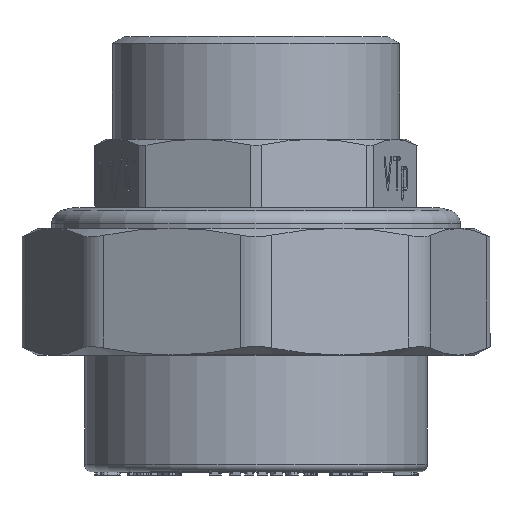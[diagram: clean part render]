
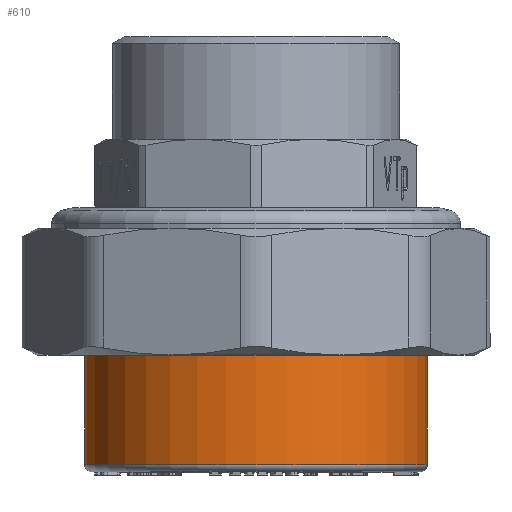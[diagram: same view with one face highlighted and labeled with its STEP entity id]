
A CAD part, top view. The second image highlights one B-rep face of the part: STEP entity #610.
In plain terms, the highlighted cylindrical face has radius 25 mm (diameter 50 mm), a full revolution.
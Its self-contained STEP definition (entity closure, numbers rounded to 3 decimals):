
#610=ADVANCED_FACE('',(#4415,#4417),#4419,.T.);
#4415=FACE_OUTER_BOUND('',#4416,.T.);
#4416=EDGE_LOOP('',(#10790));
#4417=FACE_OUTER_BOUND('',#4418,.T.);
#4418=EDGE_LOOP('',(#10791));
#4419=CYLINDRICAL_SURFACE('',#4420,25.);
#4420=AXIS2_PLACEMENT_3D('',#4421,#4422,#4423);
#4421=CARTESIAN_POINT('',(0.,0.,0.));
#4422=DIRECTION('',(0.,1.,0.));
#4423=DIRECTION('',(-1.,0.,0.));
#10790=ORIENTED_EDGE('',*,*,#14676,.F.);
#10791=ORIENTED_EDGE('',*,*,#14673,.T.);
#14673=EDGE_CURVE('',#18093,#18093,#18094,.T.);
#14676=EDGE_CURVE('',#18098,#18098,#18099,.T.);
#18093=VERTEX_POINT('',#25118);
#18094=CIRCLE('',#25119,25.);
#18098=VERTEX_POINT('',#25131);
#18099=CIRCLE('',#25132,25.);
#25118=CARTESIAN_POINT('',(-25.,1.,0.));
#25119=AXIS2_PLACEMENT_3D('',#25120,#25121,#25122);
#25120=CARTESIAN_POINT('',(0.,1.,0.));
#25121=DIRECTION('',(0.,1.,0.));
#25122=DIRECTION('',(-1.,0.,0.));
#25131=CARTESIAN_POINT('',(-25.,21.,0.));
#25132=AXIS2_PLACEMENT_3D('',#25133,#25134,#25135);
#25133=CARTESIAN_POINT('',(0.,21.,0.));
#25134=DIRECTION('',(0.,1.,0.));
#25135=DIRECTION('',(-1.,0.,0.));
